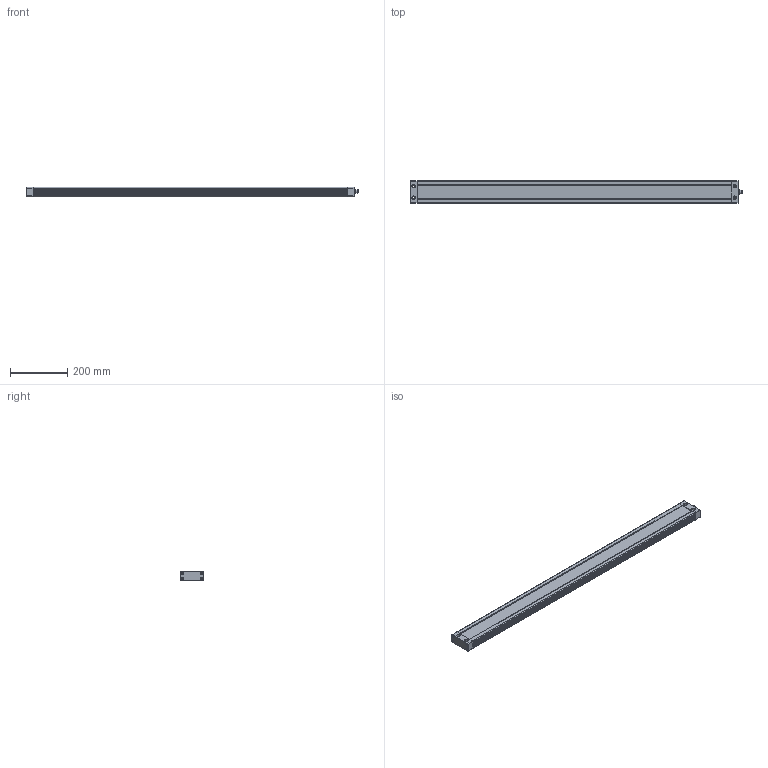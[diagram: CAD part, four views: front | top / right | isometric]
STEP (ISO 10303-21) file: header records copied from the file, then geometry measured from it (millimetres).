
FILE_DESCRIPTION(/* description */ (''),/* implementation_level */ '2;1');
FILE_NAME(/* name */ 'G:\Daten\Leuchten\05000 - LED APL - APL-RGBW\03 - CAD\Aktuelle Versionen Stand 26042023\APL1100\led-aufbauleuchte-apl-1100.stp',/* time_stamp */ '2023-04-26T07:55:12+02:00',/* author */ ('gzahn'),/* organization */ (''),/* preprocessor_version */ 'ST-DEVELOPER v19',/* originating_system */ 'Autodesk Inventor 2023',/* authorisation */ '');
FILE_SCHEMA (('AUTOMOTIVE_DESIGN { 1 0 10303 214 3 1 1 }'));
Length unit declared in the file: millimetre
Products named in the file (1): led-aufbauleuchte-apl-1100
Bounding box: 1163 x 80 x 32 mm (x, y, z)
Volume: 2668884.3 mm3; surface area: 348528.2 mm2
Topology: 1 solids, 1 shells, 546 faces, 1463 edges, 945 vertices
Faces by surface type: plane 233, cylinder 204, cone 76, bspline 30, torus 3
Full cylindrical faces by diameter (mm): 1 x5, 6.3 x4, 7.5 x8, 8.3 x1, 10.5 x1, 10.65 x1, 12 x5
Entity records: 19316 total; most frequent: CARTESIAN_POINT 6169, ORIENTED_EDGE 2910, DIRECTION 2514, EDGE_CURVE 1455, VERTEX_POINT 945, AXIS2_PLACEMENT_3D 944, LINE 626, VECTOR 626
